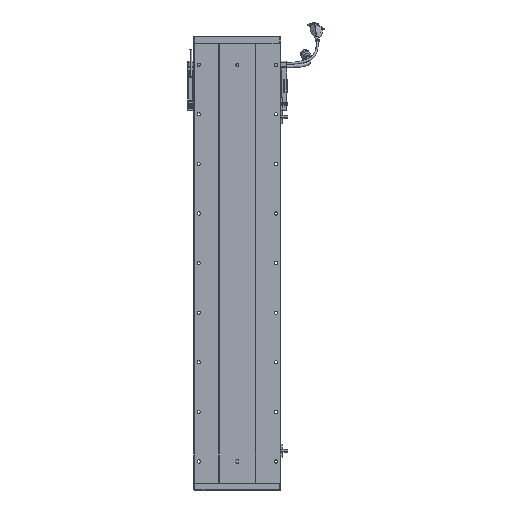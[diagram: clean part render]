
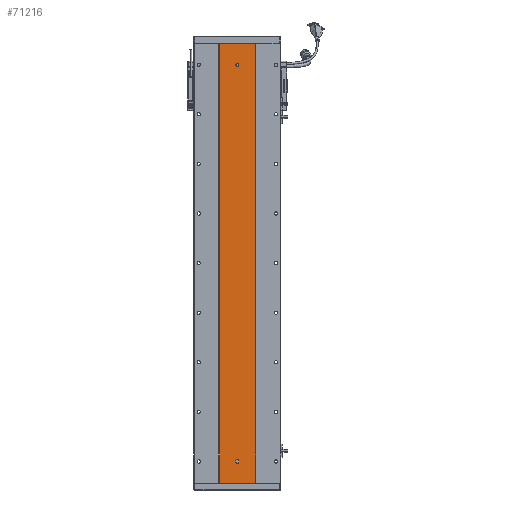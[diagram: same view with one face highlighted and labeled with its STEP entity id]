
A CAD part, front view. The second image highlights one B-rep face of the part: STEP entity #71216.
In plain terms, the highlighted planar face has unit normal (0, -1, 0).
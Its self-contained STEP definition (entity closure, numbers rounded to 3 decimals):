
#694 = CARTESIAN_POINT ( 'NONE',  ( 3277.529, 1415.701, 42. ) ) ;
#754 = AXIS2_PLACEMENT_3D ( 'NONE', #80146, #3313, #60351 ) ;
#2066 = ORIENTED_EDGE ( 'NONE', *, *, #25302, .F. ) ;
#2496 = AXIS2_PLACEMENT_3D ( 'NONE', #57013, #25351, #77351 ) ;
#2935 = CARTESIAN_POINT ( 'NONE',  ( 3244.748, 1415.701, 887. ) ) ;
#3313 = DIRECTION ( 'NONE',  ( 0., -1., 0. ) ) ;
#4075 = CARTESIAN_POINT ( 'NONE',  ( 3280.529, 1415.701, 42. ) ) ;
#4373 = CARTESIAN_POINT ( 'NONE',  ( 3283.529, 1415.701, 45. ) ) ;
#4954 = CIRCLE ( 'NONE', #7316, 3. ) ;
#5207 = VERTEX_POINT ( 'NONE', #9027 ) ;
#5549 = CARTESIAN_POINT ( 'NONE',  ( 3277.529, 1415.701, 45. ) ) ;
#6199 = EDGE_CURVE ( 'NONE', #19671, #11185, #44941, .T. ) ;
#7316 = AXIS2_PLACEMENT_3D ( 'NONE', #74118, #11180, #29891 ) ;
#7454 = VERTEX_POINT ( 'NONE', #2935 ) ;
#8096 = ORIENTED_EDGE ( 'NONE', *, *, #47821, .F. ) ;
#8702 = PLANE ( 'NONE',  #16518 ) ;
#9027 = CARTESIAN_POINT ( 'NONE',  ( 3280.529, 1415.701, 840.5 ) ) ;
#10356 = EDGE_CURVE ( 'NONE', #75942, #11185, #36364, .T. ) ;
#10583 = LINE ( 'NONE', #4373, #57359 ) ;
#10678 = FACE_BOUND ( 'NONE', #58253, .T. ) ;
#11180 = DIRECTION ( 'NONE',  ( 0., -1., 0. ) ) ;
#11185 = VERTEX_POINT ( 'NONE', #44335 ) ;
#11667 = CIRCLE ( 'NONE', #2496, 3. ) ;
#13780 = EDGE_CURVE ( 'NONE', #5207, #63839, #82224, .T. ) ;
#14116 = VECTOR ( 'NONE', #82402, 1000. ) ;
#14623 = EDGE_CURVE ( 'NONE', #20778, #15684, #59194, .T. ) ;
#15684 = VERTEX_POINT ( 'NONE', #51708 ) ;
#16155 = LINE ( 'NONE', #5549, #14116 ) ;
#16226 = DIRECTION ( 'NONE',  ( 0., 1., 0. ) ) ;
#16518 = AXIS2_PLACEMENT_3D ( 'NONE', #28212, #16226, #35167 ) ;
#16730 = VERTEX_POINT ( 'NONE', #694 ) ;
#18090 = DIRECTION ( 'NONE',  ( 0., -1., 0. ) ) ;
#19332 = CARTESIAN_POINT ( 'NONE',  ( 3280.529, 1415.701, 39. ) ) ;
#19671 = VERTEX_POINT ( 'NONE', #68231 ) ;
#20778 = VERTEX_POINT ( 'NONE', #19332 ) ;
#20883 = ORIENTED_EDGE ( 'NONE', *, *, #6199, .T. ) ;
#21534 = EDGE_CURVE ( 'NONE', #15684, #77646, #10583, .T. ) ;
#24027 = DIRECTION ( 'NONE',  ( 0., 0., -1. ) ) ;
#24261 = CARTESIAN_POINT ( 'NONE',  ( 3280.529, 1415.701, 42. ) ) ;
#25302 = EDGE_CURVE ( 'NONE', #7454, #75942, #33075, .T. ) ;
#25351 = DIRECTION ( 'NONE',  ( 0., -1., 0. ) ) ;
#25645 = EDGE_CURVE ( 'NONE', #40945, #16730, #16155, .T. ) ;
#26289 = DIRECTION ( 'NONE',  ( 1., 0., 0. ) ) ;
#27826 = VECTOR ( 'NONE', #69783, 1000. ) ;
#28212 = CARTESIAN_POINT ( 'NONE',  ( 3244.748, 1415.701, 887. ) ) ;
#29891 = DIRECTION ( 'NONE',  ( 0., 0., -1. ) ) ;
#30170 = AXIS2_PLACEMENT_3D ( 'NONE', #4075, #79263, #42213 ) ;
#30608 = CARTESIAN_POINT ( 'NONE',  ( 3244.748, 1415.701, 887. ) ) ;
#31267 = ORIENTED_EDGE ( 'NONE', *, *, #13780, .F. ) ;
#33075 = LINE ( 'NONE', #39064, #55987 ) ;
#35167 = DIRECTION ( 'NONE',  ( 0., 0., 1. ) ) ;
#36364 = LINE ( 'NONE', #49287, #78318 ) ;
#39064 = CARTESIAN_POINT ( 'NONE',  ( 3244.748, 1415.701, 887. ) ) ;
#39814 = CARTESIAN_POINT ( 'NONE',  ( 3280.529, 1415.701, 846.5 ) ) ;
#40945 = VERTEX_POINT ( 'NONE', #52259 ) ;
#42213 = DIRECTION ( 'NONE',  ( 0., 0., -1. ) ) ;
#42314 = ORIENTED_EDGE ( 'NONE', *, *, #82128, .F. ) ;
#44206 = ORIENTED_EDGE ( 'NONE', *, *, #21534, .F. ) ;
#44335 = CARTESIAN_POINT ( 'NONE',  ( 3316.311, 1415.701, 0. ) ) ;
#44941 = LINE ( 'NONE', #58517, #58922 ) ;
#45305 = ORIENTED_EDGE ( 'NONE', *, *, #10356, .F. ) ;
#47821 = EDGE_CURVE ( 'NONE', #63839, #5207, #11667, .T. ) ;
#47856 = DIRECTION ( 'NONE',  ( 0., 0., -1. ) ) ;
#49287 = CARTESIAN_POINT ( 'NONE',  ( 3316.311, 1415.701, 887. ) ) ;
#50696 = LINE ( 'NONE', #30608, #27826 ) ;
#51708 = CARTESIAN_POINT ( 'NONE',  ( 3283.529, 1415.701, 42. ) ) ;
#52259 = CARTESIAN_POINT ( 'NONE',  ( 3277.529, 1415.701, 45. ) ) ;
#55664 = EDGE_LOOP ( 'NONE', ( #20883, #45305, #2066, #75222 ) ) ;
#55846 = DIRECTION ( 'NONE',  ( 0., 0., 1. ) ) ;
#55987 = VECTOR ( 'NONE', #77485, 1000. ) ;
#57013 = CARTESIAN_POINT ( 'NONE',  ( 3280.529, 1415.701, 843.5 ) ) ;
#57359 = VECTOR ( 'NONE', #55846, 1000. ) ;
#58221 = AXIS2_PLACEMENT_3D ( 'NONE', #24261, #18090, #47856 ) ;
#58253 = EDGE_LOOP ( 'NONE', ( #42314, #82039, #71183, #44206, #67236 ) ) ;
#58517 = CARTESIAN_POINT ( 'NONE',  ( 3244.748, 1415.701, 0. ) ) ;
#58922 = VECTOR ( 'NONE', #26289, 1000. ) ;
#59194 = CIRCLE ( 'NONE', #58221, 3. ) ;
#60351 = DIRECTION ( 'NONE',  ( 0., 0., -1. ) ) ;
#62458 = FACE_BOUND ( 'NONE', #64319, .T. ) ;
#63839 = VERTEX_POINT ( 'NONE', #39814 ) ;
#64241 = CIRCLE ( 'NONE', #30170, 3. ) ;
#64319 = EDGE_LOOP ( 'NONE', ( #31267, #8096 ) ) ;
#67236 = ORIENTED_EDGE ( 'NONE', *, *, #14623, .F. ) ;
#68231 = CARTESIAN_POINT ( 'NONE',  ( 3244.748, 1415.701, 0. ) ) ;
#69621 = EDGE_CURVE ( 'NONE', #77646, #40945, #4954, .T. ) ;
#69783 = DIRECTION ( 'NONE',  ( 0., 0., -1. ) ) ;
#70327 = EDGE_CURVE ( 'NONE', #7454, #19671, #50696, .T. ) ;
#71183 = ORIENTED_EDGE ( 'NONE', *, *, #69621, .F. ) ;
#71216 = ADVANCED_FACE ( 'NONE', ( #10678, #62458, #78455 ), #8702, .F. ) ;
#73574 = CARTESIAN_POINT ( 'NONE',  ( 3316.311, 1415.701, 887. ) ) ;
#74118 = CARTESIAN_POINT ( 'NONE',  ( 3280.529, 1415.701, 45. ) ) ;
#75222 = ORIENTED_EDGE ( 'NONE', *, *, #70327, .T. ) ;
#75451 = CARTESIAN_POINT ( 'NONE',  ( 3283.529, 1415.701, 45. ) ) ;
#75942 = VERTEX_POINT ( 'NONE', #73574 ) ;
#77351 = DIRECTION ( 'NONE',  ( 0., 0., -1. ) ) ;
#77485 = DIRECTION ( 'NONE',  ( 1., 0., 0. ) ) ;
#77646 = VERTEX_POINT ( 'NONE', #75451 ) ;
#78318 = VECTOR ( 'NONE', #24027, 1000. ) ;
#78455 = FACE_OUTER_BOUND ( 'NONE', #55664, .T. ) ;
#79263 = DIRECTION ( 'NONE',  ( 0., -1., 0. ) ) ;
#80146 = CARTESIAN_POINT ( 'NONE',  ( 3280.529, 1415.701, 843.5 ) ) ;
#82039 = ORIENTED_EDGE ( 'NONE', *, *, #25645, .F. ) ;
#82128 = EDGE_CURVE ( 'NONE', #16730, #20778, #64241, .T. ) ;
#82224 = CIRCLE ( 'NONE', #754, 3. ) ;
#82402 = DIRECTION ( 'NONE',  ( 0., 0., -1. ) ) ;
